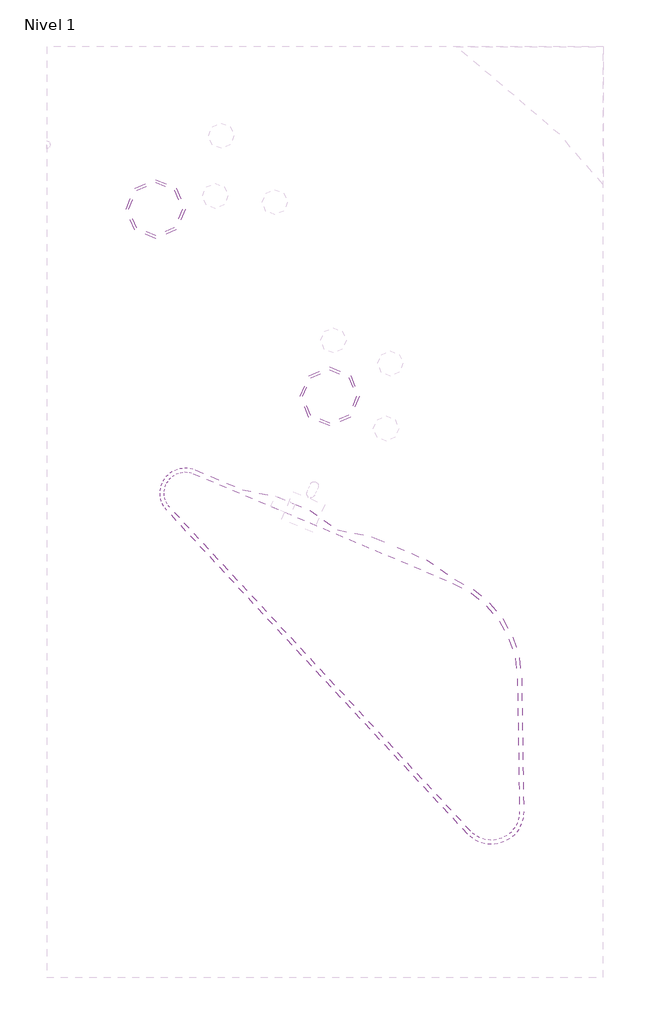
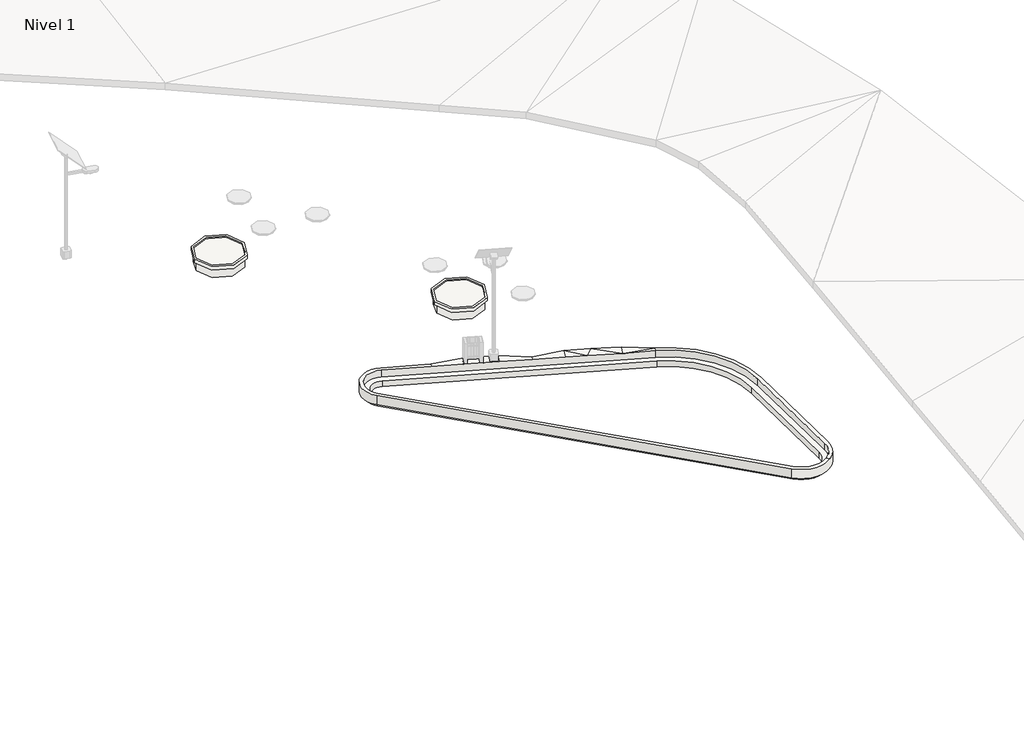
# One storey, part 19 of 45: 6 slabs.
"""IFC4 building model written with IfcOpenShell, lengths in millimetres."""

from ifc_helpers import new_model, si_unit, point, frame, frame_2d, origin, place, context, project, spatial, polyline, circle_curve, trimmed, segment, composite_curve, outline, extrude, element, save
from ifc_brep_helpers import plane_surface, cylinder_surface, revolved_surface, advanced_brep

model = new_model("IFC4")

# Units and contexts
model_context = context("Model", 3, world=origin())
ifc_project = project(units=[si_unit("LENGTHUNIT", "METRE", prefix="MILLI")], contexts=[model_context])

# Site, building, storey
site = spatial("IfcSite", under=ifc_project)
building = spatial("IfcBuilding", under=site)
storey = spatial("IfcBuildingStorey", under=building, Name="Nivel 1", Elevation=0.0)

# Slabs
placement = place(None, origin())
element("IfcSlab", 1, ObjectType="Bordillo", at=placement, inside=storey, context=model_context, shape_type="AdvancedBrep", body=[
    advanced_brep(
    [(-104205.8185438, -59502.2374665, 4800.0), (-104205.8185438, -59502.2374665, 5200.0), (-104701.1708733, -60466.1177596, 5200.0), (-106198.0893224, -60303.3724589, 5200.0), (-106198.0893224, -60303.3724589, 4800.0), (-104701.1708733, -60466.1177596, 4800.0), (-112442.1414587, -53583.7067504, 5200.0), (-116896.0895862, -48790.4984543, 5200.0), (-116896.0895862, -48790.4984543, 4800.0), (-112442.1414587, -53583.7067504, 4800.0), (-115886.962544, -47348.6331867, 5200.0), (-115886.962544, -47348.6331867, 4800.0), (-106664.7058779, -51239.2191978, 4800.0), (-106664.7058779, -51239.2191978, 5200.0), (-104281.1138127, -54770.4948405, 5200.0), (-104281.1138127, -54770.4948405, 4800.0), (-114201.6667778, -48059.6075577, 5200.0), (-114201.6667778, -48059.6075577, 4800.0), (-112998.6673116, -48295.7796915, 5200.0), (-112998.6673116, -48295.7796915, 4800.0), (-111819.3187627, -48793.3105281, 5200.0), (-111819.3187627, -48793.3105281, 4800.0), (-110810.8531392, -49490.0874397, 5200.0), (-110810.8531392, -49490.0874397, 4800.0), (-109608.0398643, -49726.1810744, 5200.0009884), (-109608.0398643, -49726.1810744, 4800.0009884), (-108702.0897824, -50108.3735022, 5200.0), (-107673.1711971, -50542.442553, 5177.2030529), (-107673.1711971, -50542.442553, 4777.2030529), (-108702.0897824, -50108.3735022, 4800.0), (-115945.2669389, -47486.8380981, 4800.0), (-115945.2669389, -47486.8380981, 5200.0), (-116786.2061408, -48688.3924878, 5200.0), (-116786.2061408, -48688.3924878, 4800.0), (-112332.2580132, -53481.6007838, 5200.0), (-106088.2074482, -60201.2648013, 5200.0), (-106088.2074482, -60201.2648013, 4800.0), (-112332.2580132, -53481.6007838, 4800.0), (-104786.5467571, -60342.7850449, 5200.0), (-104355.7995561, -59504.6240842, 5200.0), (-104355.7995561, -59504.6240842, 4800.0), (-104786.5467571, -60342.7850449, 4800.0), (-104431.094825, -54772.8814583, 5200.0), (-104431.094825, -54772.8814583, 4800.0), (-106723.0102605, -51377.4241144, 5200.0), (-106723.0102605, -51377.4241144, 4800.0), (-107828.6495686, -50910.9889477, 5177.2), (-109023.414027, -50406.9546254, 5200.0), (-109763.5182316, -50094.7274592, 5200.0), (-110869.157514, -49628.2923033, 5199.9996705), (-111974.7971636, -49161.8569925, 5200.0), (-113154.1457167, -48664.3261659, 5200.0), (-114259.9711728, -48197.8124691, 5200.0), (-114259.9711728, -48197.8124691, 4800.0), (-113154.1457167, -48664.3261659, 4800.0), (-111974.7971636, -49161.8569925, 4800.0), (-110869.157514, -49628.2923033, 4800.0), (-109763.5182316, -50094.7274592, 4800.0009884), (-109023.414027, -50406.9546254, 4800.0), (-107828.6495686, -50910.9889477, 4777.2)],
    [
        (0, 1),
        (1, 2, circle_curve(frame((-105355.6729718, -59520.5348687, 5200.0), z_axis=(0.0, 0.0, -1.0), x_axis=(1.0, 0.0, 0.0)), 1150.0000002)),
        (2, 3, circle_curve(frame((-105355.6729718, -59520.5348687, 5200.0), z_axis=(0.0, 0.0, -1.0), x_axis=(1.0, 0.0, 0.0)), 1150.0000002)),
        (3, 4),
        (4, 5, circle_curve(frame((-105355.6729718, -59520.5348687, 4800.0), z_axis=(0.0, 0.0, 1.0), x_axis=(1.0, 0.0, 0.0)), 1150.0000002)),
        (5, 0, circle_curve(frame((-105355.6729718, -59520.5348687, 4800.0), z_axis=(0.0, 0.0, 1.0), x_axis=(1.0, 0.0, 0.0)), 1150.0000002)),
        (3, 6),
        (6, 7),
        (7, 8),
        (8, 9),
        (9, 4),
        (7, 10, circle_curve(frame((-116236.7889136, -48177.8626549, 5200.0), z_axis=(0.0, 0.0, -1.0), x_axis=(1.0, 0.0, 0.0)), 899.9999999)),
        (10, 11),
        (11, 8, circle_curve(frame((-116236.7889136, -48177.8626549, 4800.0), z_axis=(0.0, 0.0, 1.0), x_axis=(1.0, 0.0, 0.0)), 899.9999999)),
        (12, 13),
        (13, 14, circle_curve(frame((-108180.6201346, -54832.5469005, 5200.0), z_axis=(0.0, 0.0, -1.0), x_axis=(1.0, 0.0, 0.0)), 3900.0000017)),
        (14, 15),
        (15, 12, circle_curve(frame((-108180.6201346, -54832.5469005, 4800.0), z_axis=(0.0, 0.0, 1.0), x_axis=(1.0, 0.0, 0.0)), 3900.0000017)),
        (14, 1),
        (0, 15),
        (10, 16),
        (16, 17),
        (17, 11),
        (16, 18),
        (18, 19),
        (19, 17),
        (18, 20),
        (20, 21),
        (21, 19),
        (20, 22),
        (22, 23),
        (23, 21),
        (22, 24),
        (24, 25),
        (25, 23),
        (24, 26),
        (26, 27),
        (27, 28),
        (28, 29),
        (29, 25),
        (27, 13),
        (12, 28),
        (30, 31),
        (31, 32, circle_curve(frame((-116236.7889136, -48177.8626549, 5200.0), z_axis=(0.0, 0.0, 1.0), x_axis=(1.0, 0.0, 0.0)), 749.9999999)),
        (32, 33),
        (33, 30, circle_curve(frame((-116236.7889136, -48177.8626549, 4800.0), z_axis=(0.0, 0.0, -1.0), x_axis=(1.0, 0.0, 0.0)), 749.9999999)),
        (32, 34),
        (34, 35),
        (35, 36),
        (36, 37),
        (37, 33),
        (35, 38, circle_curve(frame((-105355.6729718, -59520.5348687, 5200.0), z_axis=(0.0, 0.0, 1.0), x_axis=(1.0, 0.0, 0.0)), 1000.0000002)),
        (38, 39, circle_curve(frame((-105355.6729718, -59520.5348687, 5200.0), z_axis=(0.0, 0.0, 1.0), x_axis=(1.0, 0.0, 0.0)), 1000.0000002)),
        (39, 40),
        (40, 41, circle_curve(frame((-105355.6729718, -59520.5348687, 4800.0), z_axis=(0.0, 0.0, -1.0), x_axis=(1.0, 0.0, 0.0)), 1000.0000002)),
        (41, 36, circle_curve(frame((-105355.6729718, -59520.5348687, 4800.0), z_axis=(0.0, 0.0, -1.0), x_axis=(1.0, 0.0, 0.0)), 1000.0000002)),
        (39, 42),
        (42, 43),
        (43, 40),
        (42, 44, circle_curve(frame((-108180.6201346, -54832.5469005, 5200.0), z_axis=(0.0, 0.0, 1.0), x_axis=(1.0, 0.0, 0.0)), 3750.0000017)),
        (44, 45),
        (45, 43, circle_curve(frame((-108180.6201346, -54832.5469005, 4800.0), z_axis=(0.0, 0.0, -1.0), x_axis=(1.0, 0.0, 0.0)), 3750.0000017)),
        (44, 46),
        (46, 47),
        (47, 48),
        (48, 49),
        (49, 50),
        (50, 51),
        (51, 52),
        (52, 31),
        (30, 53),
        (53, 54),
        (54, 55),
        (55, 56),
        (56, 57),
        (57, 58),
        (58, 59),
        (59, 45),
        (13, 44),
        (38, 2),
        (5, 41),
        (45, 12),
        (52, 16),
        (17, 53),
        (20, 50),
        (49, 22),
        (23, 56),
        (55, 21),
        (48, 24),
        (25, 57),
        (27, 46),
        (46, 13),
        (12, 59),
        (59, 28),
        (26, 46),
        (59, 29),
        (24, 47),
        (47, 26),
        (29, 58),
        (58, 25),
        (18, 51),
        (54, 19),
    ],
    [
        cylinder_surface(frame((-105355.6729718, -59520.5348687, 5000.0), z_axis=(0.0, 0.0, -1.0), x_axis=(1.0, 0.0, 0.0)), 1150.0000002),
        plane_surface(frame((-106198.0893224, -60303.3724588, 4600.0), z_axis=(-0.7325563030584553, -0.6807064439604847, 0.0), x_axis=(0.0, 0.0, 1.0))),
        cylinder_surface(frame((-116236.7889136, -48177.8626549, 5000.0), z_axis=(0.0, 0.0, -1.0), x_axis=(1.0, 0.0, 0.0)), 899.9999999),
        cylinder_surface(frame((-108180.6201346, -54832.5469005, 5000.0), z_axis=(0.0, 0.0, -1.0), x_axis=(1.0, 0.0, 0.0)), 3900.0000017),
        plane_surface(frame((-104281.1138127, -54770.4948405, 4600.0), z_axis=(0.9998734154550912, 0.015910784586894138, 0.0), x_axis=(0.0, 0.0, 1.0))),
        plane_surface(frame((-115886.962544, -47348.6331867, 4600.0), z_axis=(0.3886959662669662, 0.9213660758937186, 0.0), x_axis=(0.0, 0.0, 1.0))),
        plane_surface(frame((-114201.6667778, -48059.6075577, 4600.0), z_axis=(0.19264215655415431, 0.9812690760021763, 0.0), x_axis=(0.0, 0.0, 1.0))),
        plane_surface(frame((-112998.6673116, -48295.7796915, 4600.0), z_axis=(0.38869597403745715, 0.9213660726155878, 0.0), x_axis=(0.0, 0.0, 1.0))),
        plane_surface(frame((-111819.3187627, -48793.3105281, 4600.0), z_axis=(0.5684422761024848, 0.8227231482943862, 0.0), x_axis=(0.0, 0.0, 1.0))),
        plane_surface(frame((-110810.8531392, -49490.0874397, 4600.0), z_axis=(0.19260920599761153, 0.9812755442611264, 0.0), x_axis=(0.0, 0.0, 1.0))),
        plane_surface(frame((-109608.0398643, -49726.1810744, 4600.0), z_axis=(0.38869596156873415, 0.921366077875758, 0.0), x_axis=(0.0, 0.0, 1.0))),
        plane_surface(frame((-107673.1711971, -50542.442553, 4600.0), z_axis=(0.5684422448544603, 0.8227231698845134, 0.0), x_axis=(0.0, 0.0, 1.0))),
        revolved_surface(polyline([(-115486.7889137, -48177.8626549, 5200.0), (-115486.7889137, -48177.8626549, 4800.0)]), (-116236.7889136, -48177.8626549, 0.0), (0.0, 0.0, 1.0)),
        plane_surface(frame((-116786.2061408, -48688.3924878, 4600.0), z_axis=(0.7325563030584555, 0.6807064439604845, 0.0), x_axis=(0.0, 0.0, 1.0))),
        revolved_surface(polyline([(-104355.6729716, -59520.5348687, 5200.0), (-104355.6729716, -59520.5348687, 4800.0)]), (-105355.6729718, -59520.5348687, 0.0), (0.0, 0.0, 1.0)),
        plane_surface(frame((-104355.7995561, -59504.6240842, 4600.0), z_axis=(-0.9998734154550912, -0.015910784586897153, 0.0), x_axis=(0.0, 0.0, 1.0))),
        revolved_surface(polyline([(-104430.6201329, -54832.5469005, 5200.0), (-104430.6201329, -54832.5469005, 4800.0)]), (-108180.6201346, -54832.5469005, 0.0), (0.0, 0.0, 1.0)),
        plane_surface(frame((-106723.0102605, -51377.4241144, 4600.0), z_axis=(-0.3886959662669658, -0.9213660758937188, 0.0), x_axis=(0.0, 0.0, 1.0))),
        plane_surface(frame((-105018.6568077, -56496.9724728, 5200.0), z_axis=(0.0, 0.0, 1.0), x_axis=(1.0, 0.0, 0.0))),
        plane_surface(frame((-105018.6568077, -56496.9724728, 4800.0), z_axis=(0.0, 0.0, -1.0), x_axis=(1.0, 0.0, 0.0))),
        plane_surface(frame((-111575.0188567, -52988.5329936, 5200.0), z_axis=(0.0, 0.0, 1.0), x_axis=(-0.9213660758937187, 0.38869596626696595, 0.0))),
        plane_surface(frame((-111575.0188567, -52988.5329936, 4800.0), z_axis=(0.0, 0.0, -1.0), x_axis=(-0.9213660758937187, 0.38869596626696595, 0.0))),
        plane_surface(frame((-111368.5316449, -49268.3868159, 5200.0), z_axis=(0.0, 0.0, 1.0), x_axis=(-0.8227231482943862, 0.5684422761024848, 0.0))),
        plane_surface(frame((-111368.5316449, -49268.3868159, 4800.0), z_axis=(0.0, 0.0, -1.0), x_axis=(-0.8227231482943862, 0.5684422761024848, 0.0))),
        plane_surface(frame((-110262.8921873, -49734.8220691, 5200.0003295), z_axis=(-1.0118309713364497e-06, 4.268603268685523e-07, 0.999999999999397), x_axis=(-0.9812755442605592, 0.1926092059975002, -1.0751022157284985e-06))),
        plane_surface(frame((-110262.8921873, -49734.8220691, 4800.0003295), z_axis=(1.0118309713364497e-06, -4.268603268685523e-07, -0.999999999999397), x_axis=(-0.9812755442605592, 0.1926092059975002, -1.0751022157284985e-06))),
        plane_surface(frame((-107388.8422145, -50897.5502328, 5184.8010176), z_axis=(-0.01750488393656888, 0.007376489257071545, 0.9998195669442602), x_axis=(-0.8225809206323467, 0.5683439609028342, -0.0185949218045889))),
        plane_surface(frame((-107388.8422145, -50897.5502328, 4784.8010176), z_axis=(0.01750488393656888, -0.007376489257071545, -0.9998195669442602), x_axis=(-0.8225809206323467, 0.5683439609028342, -0.0185949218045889))),
        plane_surface(frame((-108067.9701827, -50520.6016676, 5184.8010176), z_axis=(0.018801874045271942, -0.00794021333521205, 0.9997916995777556), x_axis=(-0.9211741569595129, 0.38861499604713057, 0.02040973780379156))),
        plane_surface(frame((-108067.9701827, -50520.6016676, 4784.8010176), z_axis=(-0.018801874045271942, 0.00794021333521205, -0.9997916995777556), x_axis=(-0.9211741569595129, 0.38861499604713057, 0.02040973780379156))),
        plane_surface(frame((-109111.1812245, -50080.5030673, 5200.0004393), z_axis=(1.0004314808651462e-06, -1.0766350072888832e-06, 0.99999999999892), x_axis=(0.651501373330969, -0.7586474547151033, -1.4685688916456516e-06))),
        plane_surface(frame((-109111.1812245, -50080.5030673, 4800.0004393), z_axis=(-1.0004314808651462e-06, 1.0766350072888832e-06, -0.99999999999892), x_axis=(0.651501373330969, -0.7586474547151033, -1.4685688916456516e-06))),
        plane_surface(frame((-108518.051126, -50475.4390251, 5192.4), z_axis=(0.013122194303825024, -0.014121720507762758, 0.9998141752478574), x_axis=(0.9212236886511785, -0.388635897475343, -0.017579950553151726))),
        plane_surface(frame((-107072.1219023, -51175.8774199, 5192.4), z_axis=(-0.017502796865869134, 0.007383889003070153, 0.9998195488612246), x_axis=(-0.962291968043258, 0.2713647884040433, -0.0188499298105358))),
        plane_surface(frame((-108518.051126, -50475.4390251, 4792.4), z_axis=(-0.013122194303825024, 0.014121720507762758, -0.9998141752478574), x_axis=(0.9212236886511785, -0.388635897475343, -0.017579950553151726))),
        plane_surface(frame((-107072.1219023, -51175.8774199, 4792.4), z_axis=(0.017502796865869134, -0.007383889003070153, -0.9998195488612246), x_axis=(-0.962291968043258, 0.2713647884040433, -0.0188499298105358))),
        plane_surface(frame((-109464.9907076, -50075.9543863, 5200.0004393), z_axis=(-1.2805811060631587e-06, -3.0354932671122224e-06, 0.9999999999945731), x_axis=(-0.3886959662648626, -0.9213660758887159, -3.294557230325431e-06))),
        plane_surface(frame((-109464.9907076, -50075.9543863, 4800.0004393), z_axis=(1.2805811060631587e-06, 3.0354932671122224e-06, -0.9999999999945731), x_axis=(-0.3886959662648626, -0.9213660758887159, -3.294557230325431e-06))),
        plane_surface(frame((-112486.7322386, -48728.8183445, 5200.0), z_axis=(0.0, 0.0, 1.0), x_axis=(-0.9213660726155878, 0.38869597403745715, 0.0))),
        plane_surface(frame((-113653.6127447, -48304.381471, 5200.0), z_axis=(0.0, 0.0, 1.0), x_axis=(-0.9812690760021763, 0.19264215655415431, 0.0))),
        plane_surface(frame((-112486.7322386, -48728.8183445, 4800.0), z_axis=(0.0, 0.0, -1.0), x_axis=(-0.9213660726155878, 0.38869597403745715, 0.0))),
        plane_surface(frame((-113653.6127447, -48304.381471, 4800.0), z_axis=(0.0, 0.0, -1.0), x_axis=(-0.9812690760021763, 0.19264215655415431, 0.0))),
    ],
    [
        (0, [[1, 2, 3, 4, 5, 6]]),
        (1, [[-4, 7, 8, 9, 10, 11]]),
        (2, [[-9, 12, 13, 14]]),
        (3, [[15, 16, 17, 18]]),
        (4, [[-17, 19, -1, 20]]),
        (5, [[-13, 21, 22, 23]]),
        (6, [[-22, 24, 25, 26]]),
        (7, [[-25, 27, 28, 29]]),
        (8, [[-28, 30, 31, 32]]),
        (9, [[-31, 33, 34, 35]]),
        (10, [[-34, 36, 37, 38, 39, 40]]),
        (11, [[-38, 41, -15, 42]]),
        (12, [[43, 44, 45, 46]]),
        (13, [[-45, 47, 48, 49, 50, 51]]),
        (14, [[-49, 52, 53, 54, 55, 56]]),
        (15, [[-54, 57, 58, 59]]),
        (16, [[-58, 60, 61, 62]]),
        (17, [[-61, 63, 64, 65, 66, 67, 68, 69, 70, -43, 71, 72, 73, 74, 75, 76, 77, 78]]),
        (18, [[-16, 79, -60, -57, -53, 80, -2, -19]]),
        (19, [[-20, -6, 81, -55, -59, -62, 82, -18]]),
        (20, [[-21, -12, -8, -7, -3, -80, -52, -48, -47, -44, -70, 83]]),
        (21, [[84, -71, -46, -51, -50, -56, -81, -5, -11, -10, -14, -23]]),
        (22, [[-30, 85, -67, 86]]),
        (23, [[87, -74, 88, -32]]),
        (24, [[-33, -86, -66, 89]]),
        (25, [[90, -75, -87, -35]]),
        (26, [[-41, 91, 92]]),
        (27, [[93, 94, -42]]),
        (28, [[-37, 95, -91]]),
        (29, [[-94, 96, -39]]),
        (30, [[97, 98, -36]]),
        (31, [[-40, 99, 100]]),
        (32, [[-64, -95, -98]]),
        (33, [[-92, -63, -79]]),
        (34, [[-99, -96, -77]]),
        (35, [[-82, -78, -93]]),
        (36, [[-89, -65, -97]]),
        (37, [[-100, -76, -90]]),
        (38, [[-27, 101, -68, -85]]),
        (39, [[-24, -83, -69, -101]]),
        (40, [[-88, -73, 102, -29]]),
        (41, [[-102, -72, -84, -26]]),
    ],
),
])
element("IfcSlab", 2, ObjectType="Alcorque", at=placement, inside=storey, context=model_context, shape_type="SweptSolid", body=[
    extrude(outline(composite_curve([segment(trimmed(circle_curve(frame_2d((-111101.5149124, -44743.3565365)), 1050.0), [point((-112151.5149124, -44743.3565365))], [point((-110051.5149124, -44743.3565365))], False, "CARTESIAN"), True, "CONTINUOUS"), segment(trimmed(circle_curve(frame_2d((-111101.5149124, -44743.3565365)), 1050.0), [point((-110051.5149124, -44743.3565365))], [point((-112151.5149124, -44743.3565365))], False, "CARTESIAN"), True, "CONTINUOUS")], self_intersect=False), holes=[composite_curve([segment(trimmed(circle_curve(frame_2d((-111101.5149124, -44743.3565365)), 950.0), [point((-112051.5149124, -44743.3565365))], [point((-110151.5149124, -44743.3565365))], True, "CARTESIAN"), True, "CONTINUOUS"), segment(trimmed(circle_curve(frame_2d((-111101.5149124, -44743.3565365)), 950.0), [point((-110151.5149124, -44743.3565365))], [point((-112051.5149124, -44743.3565365))], True, "CARTESIAN"), True, "CONTINUOUS")], self_intersect=False)]), frame((0.0, 0.0, 5100.0), z_axis=(0.0, 0.0, 1.0), x_axis=(1.0, 0.0, 0.0)), (0.0, 0.0, 1.0), 150.0),
])
element("IfcSlab", 3, ObjectType="Alcorque", at=placement, inside=storey, context=model_context, shape_type="SweptSolid", body=[
    extrude(outline(composite_curve([segment(trimmed(circle_curve(frame_2d((-117291.2900935, -38081.8746699)), 1050.0), [point((-116241.2900935, -38081.8746699))], [point((-118341.2900935, -38081.8746699))], False, "CARTESIAN"), True, "CONTINUOUS"), segment(trimmed(circle_curve(frame_2d((-117291.2900935, -38081.8746699)), 1050.0), [point((-118341.2900935, -38081.8746699))], [point((-116241.2900935, -38081.8746699))], False, "CARTESIAN"), True, "CONTINUOUS")], self_intersect=False), holes=[composite_curve([segment(trimmed(circle_curve(frame_2d((-117291.2900935, -38081.8746699)), 950.0), [point((-118241.2900935, -38081.8746699))], [point((-116341.2900935, -38081.8746699))], True, "CARTESIAN"), True, "CONTINUOUS"), segment(trimmed(circle_curve(frame_2d((-117291.2900935, -38081.8746699)), 950.0), [point((-116341.2900935, -38081.8746699))], [point((-118241.2900935, -38081.8746699))], True, "CARTESIAN"), True, "CONTINUOUS")], self_intersect=False)]), frame((0.0, 0.0, 5100.0), z_axis=(0.0, 0.0, 1.0), x_axis=(1.0, 0.0, 0.0)), (0.0, 0.0, 1.0), 150.0),
])
element("IfcSlab", 4, ObjectType="Tierra de Chacra (50cm)", at=placement, inside=storey, context=model_context, shape_type="SweptSolid", body=[
    extrude(outline(composite_curve([segment(trimmed(circle_curve(frame_2d((-117291.2900935, -38081.8746699)), 950.0), [point((-118241.2900935, -38081.8746699))], [point((-116341.2900935, -38081.8746699))], False, "CARTESIAN"), True, "CONTINUOUS"), segment(trimmed(circle_curve(frame_2d((-117291.2900935, -38081.8746699)), 950.0), [point((-116341.2900935, -38081.8746699))], [point((-118241.2900935, -38081.8746699))], False, "CARTESIAN"), True, "CONTINUOUS")], self_intersect=False)), frame((0.0, 0.0, 4700.0), z_axis=(0.0, 0.0, 1.0), x_axis=(1.0, 0.0, 0.0)), (0.0, 0.0, 1.0), 500.0),
])
element("IfcSlab", 5, ObjectType="Tierra de Chacra (50cm)", at=placement, inside=storey, context=model_context, shape_type="SweptSolid", body=[
    extrude(outline(composite_curve([segment(trimmed(circle_curve(frame_2d((-111101.5149124, -44743.3565365)), 950.0), [point((-112051.5149124, -44743.3565365))], [point((-110151.5149124, -44743.3565365))], False, "CARTESIAN"), True, "CONTINUOUS"), segment(trimmed(circle_curve(frame_2d((-111101.5149124, -44743.3565365)), 950.0), [point((-110151.5149124, -44743.3565365))], [point((-112051.5149124, -44743.3565365))], False, "CARTESIAN"), True, "CONTINUOUS")], self_intersect=False)), frame((0.0, 0.0, 4700.0), z_axis=(0.0, 0.0, 1.0), x_axis=(1.0, 0.0, 0.0)), (0.0, 0.0, 1.0), 500.0),
])
element("IfcSlab", 6, ObjectType="Tierra de Chacra (25cm)", at=placement, inside=storey, context=model_context, shape_type="SweptSolid", body=[
    extrude(outline(composite_curve([segment(polyline([(-104431.0948248, -54772.8814582), (-104355.7995562, -59504.6240834)]), True, "CONTINUOUS"), segment(trimmed(circle_curve(frame_2d((-105355.6729718, -59520.534868)), 1000.0000001), [point((-104355.7995562, -59504.6240834))], [point((-106088.2292749, -60201.241312))], False, "CARTESIAN"), True, "CONTINUOUS"), segment(polyline([(-106088.2292749, -60201.241312), (-116786.2061387, -48688.39249)]), True, "CONTINUOUS"), segment(trimmed(circle_curve(frame_2d((-116236.7889114, -48177.862657)), 750.0), [point((-116786.2061387, -48688.39249))], [point((-115945.2669367, -47486.8381001))], False, "CARTESIAN"), True, "CONTINUOUS"), segment(polyline([(-115945.2669367, -47486.8381001), (-106723.0102591, -51377.4241161)]), True, "CONTINUOUS"), segment(trimmed(circle_curve(frame_2d((-108180.6201324, -54832.5469004)), 3749.9999997), [point((-106723.0102591, -51377.4241161))], [point((-104431.0948248, -54772.8814582))], False, "CARTESIAN"), True, "CONTINUOUS")], self_intersect=False), holes=[composite_curve([segment(trimmed(circle_curve(frame_2d((-108180.6201324, -54832.5469004)), 3499.9999997), [point((-104681.0631787, -54776.8591544))], [point((-106820.1842506, -51607.7656351))], True, "CARTESIAN"), True, "CONTINUOUS"), segment(polyline([(-106820.1842506, -51607.7656351), (-116042.4409283, -47717.1796191)]), True, "CONTINUOUS"), segment(trimmed(circle_curve(frame_2d((-116236.7889114, -48177.862657)), 500.0), [point((-116042.4409283, -47717.1796191))], [point((-116603.0670629, -48518.215879))], True, "CARTESIAN"), True, "CONTINUOUS"), segment(polyline([(-116603.0670629, -48518.215879), (-105905.0901991, -60031.064701)]), True, "CONTINUOUS"), segment(trimmed(circle_curve(frame_2d((-105355.6729718, -59520.534868)), 750.0000001), [point((-105905.0901991, -60031.064701))], [point((-104605.7679101, -59508.6017796))], True, "CARTESIAN"), True, "CONTINUOUS"), segment(polyline([(-104605.7679101, -59508.6017796), (-104681.0631787, -54776.8591544)]), True, "CONTINUOUS")], self_intersect=False)]), frame((0.0, 0.0, 4650.0), z_axis=(0.0, 0.0, 1.0), x_axis=(1.0, 0.0, 0.0)), (0.0, 0.0, 1.0), 250.0),
])

save(model, "model.ifc")
